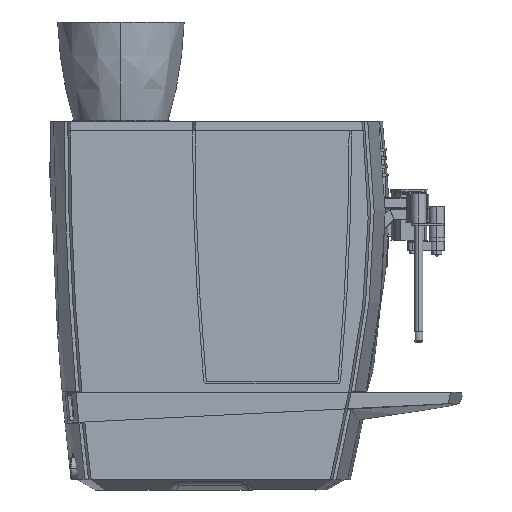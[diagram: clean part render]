
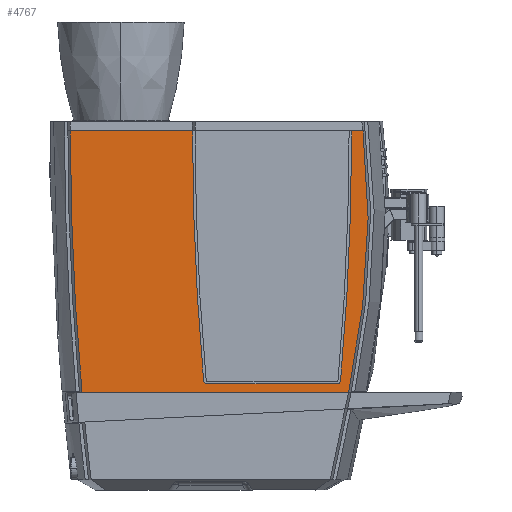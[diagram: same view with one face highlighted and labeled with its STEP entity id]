
A CAD part, left-side view. The second image highlights one B-rep face of the part: STEP entity #4767.
In plain terms, the highlighted planar face has unit normal (-1, 0, 0).
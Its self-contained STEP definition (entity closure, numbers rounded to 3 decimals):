
#1210=CIRCLE('',#30943,3528.26);
#1214=CIRCLE('',#30948,5.);
#1216=CIRCLE('',#30951,5.);
#1218=CIRCLE('',#30963,3381.513);
#1220=CIRCLE('',#30967,3381.513);
#4767=ADVANCED_FACE('',(#6815),#5493,.F.);
#5493=PLANE('',#30970);
#6815=FACE_OUTER_BOUND('',#8500,.T.);
#8500=EDGE_LOOP('',(#19528,#19529,#19530,#19531,#19532,#19533,#19534,#19535,
#19536,#19537));
#10462=LINE('',#73583,#11791);
#10475=LINE('',#73767,#11804);
#10476=LINE('',#73769,#11805);
#10477=LINE('',#73770,#11806);
#11791=VECTOR('',#36244,1.);
#11804=VECTOR('',#36281,1.);
#11805=VECTOR('',#36284,1.);
#11806=VECTOR('',#36285,1.);
#19528=ORIENTED_EDGE('',*,*,#27327,.T.);
#19529=ORIENTED_EDGE('',*,*,#27285,.F.);
#19530=ORIENTED_EDGE('',*,*,#27329,.T.);
#19531=ORIENTED_EDGE('',*,*,#27289,.F.);
#19532=ORIENTED_EDGE('',*,*,#27323,.T.);
#19533=ORIENTED_EDGE('',*,*,#27330,.F.);
#19534=ORIENTED_EDGE('',*,*,#27280,.F.);
#19535=ORIENTED_EDGE('',*,*,#27303,.T.);
#19536=ORIENTED_EDGE('',*,*,#27320,.F.);
#19537=ORIENTED_EDGE('',*,*,#27331,.F.);
#23184=VERTEX_POINT('',#73502);
#23185=VERTEX_POINT('',#73504);
#23189=VERTEX_POINT('',#73513);
#23190=VERTEX_POINT('',#73515);
#23193=VERTEX_POINT('',#73522);
#23194=VERTEX_POINT('',#73524);
#23203=VERTEX_POINT('',#73582);
#23214=VERTEX_POINT('',#73667);
#23216=VERTEX_POINT('',#73755);
#23218=VERTEX_POINT('',#73764);
#27280=EDGE_CURVE('',#23184,#23185,#1210,.T.);
#27285=EDGE_CURVE('',#23189,#23190,#1214,.T.);
#27289=EDGE_CURVE('',#23193,#23194,#1216,.T.);
#27303=EDGE_CURVE('',#23184,#23203,#10462,.T.);
#27320=EDGE_CURVE('',#23214,#23203,#29180,.T.);
#27323=EDGE_CURVE('',#23193,#23216,#1218,.T.);
#27327=EDGE_CURVE('',#23218,#23190,#1220,.T.);
#27329=EDGE_CURVE('',#23189,#23194,#10475,.T.);
#27330=EDGE_CURVE('',#23185,#23216,#10476,.T.);
#27331=EDGE_CURVE('',#23218,#23214,#10477,.T.);
#29180=B_SPLINE_CURVE_WITH_KNOTS('',3,(#73668,#73669,#73670,#73671,#73672,
#73673,#73674,#73675,#73676,#73677,#73678,#73679,#73680,#73681),.UNSPECIFIED.,
 .F.,.F.,(4,2,2,2,2,2,4),(0.,0.25,0.375,0.5,0.75,0.875,1.),.UNSPECIFIED.);
#30943=AXIS2_PLACEMENT_3D('',#73503,#36205,#36206);
#30948=AXIS2_PLACEMENT_3D('',#73514,#36216,#36217);
#30951=AXIS2_PLACEMENT_3D('',#73523,#36224,#36225);
#30963=AXIS2_PLACEMENT_3D('',#73756,#36266,#36267);
#30967=AXIS2_PLACEMENT_3D('',#73763,#36276,#36277);
#30970=AXIS2_PLACEMENT_3D('',#73771,#36286,#36287);
#36205=DIRECTION('',(1.,0.,0.));
#36206=DIRECTION('',(0.,0.,-1.));
#36216=DIRECTION('',(-1.,0.,0.));
#36217=DIRECTION('',(0.,0.,-1.));
#36224=DIRECTION('',(-1.,0.,0.));
#36225=DIRECTION('',(0.,0.,-1.));
#36244=DIRECTION('',(0.,-1.,0.));
#36266=DIRECTION('',(1.,0.,0.));
#36267=DIRECTION('',(0.,0.,-1.));
#36276=DIRECTION('',(1.,0.,0.));
#36277=DIRECTION('',(0.,0.,-1.));
#36281=DIRECTION('',(0.,1.,0.));
#36284=DIRECTION('',(0.,-1.,0.));
#36285=DIRECTION('',(0.,-1.,0.));
#36286=DIRECTION('',(1.,0.,0.));
#36287=DIRECTION('',(0.,-1.,0.));
#73502=CARTESIAN_POINT('',(-160.,367.76,35.));
#73503=CARTESIAN_POINT('',(-160.,-3146.5,349.));
#73504=CARTESIAN_POINT('',(-160.,381.76,349.));
#73513=CARTESIAN_POINT('',(-160.,61.913,45.));
#73514=CARTESIAN_POINT('',(-160.,61.913,50.));
#73515=CARTESIAN_POINT('',(-160.,56.933,49.557));
#73522=CARTESIAN_POINT('',(-160.,221.624,49.557));
#73523=CARTESIAN_POINT('',(-160.,216.643,50.));
#73524=CARTESIAN_POINT('',(-160.,216.643,45.));
#73582=CARTESIAN_POINT('',(-160.,47.364,35.));
#73583=CARTESIAN_POINT('',(-160.,-150.,35.));
#73667=CARTESIAN_POINT('',(-160.,29.934,349.));
#73668=CARTESIAN_POINT('',(-160.,30.017,348.989));
#73669=CARTESIAN_POINT('',(-160.,26.487,322.797));
#73670=CARTESIAN_POINT('',(-160.,24.465,296.562));
#73671=CARTESIAN_POINT('',(-160.,23.674,257.148));
#73672=CARTESIAN_POINT('',(-160.,23.789,243.999));
#73673=CARTESIAN_POINT('',(-160.,24.431,217.69));
#73674=CARTESIAN_POINT('',(-160.,25.,204.524));
#73675=CARTESIAN_POINT('',(-160.,27.457,165.034));
#73676=CARTESIAN_POINT('',(-160.,30.084,138.842));
#73677=CARTESIAN_POINT('',(-160.,35.49,99.756));
#73678=CARTESIAN_POINT('',(-160.,37.536,86.76));
#73679=CARTESIAN_POINT('',(-160.,42.118,60.837));
#73680=CARTESIAN_POINT('',(-160.,44.703,47.915));
#73681=CARTESIAN_POINT('',(-160.,47.42,35.012));
#73755=CARTESIAN_POINT('',(-160.,234.908,349.));
#73756=CARTESIAN_POINT('',(-160.,-3146.605,349.));
#73763=CARTESIAN_POINT('',(-160.,3425.161,349.));
#73764=CARTESIAN_POINT('',(-160.,43.649,349.));
#73767=CARTESIAN_POINT('',(-160.,-150.,45.));
#73769=CARTESIAN_POINT('',(-160.,145.,349.));
#73770=CARTESIAN_POINT('',(-160.,145.,349.));
#73771=CARTESIAN_POINT('',(-160.,-150.,1163.444));
